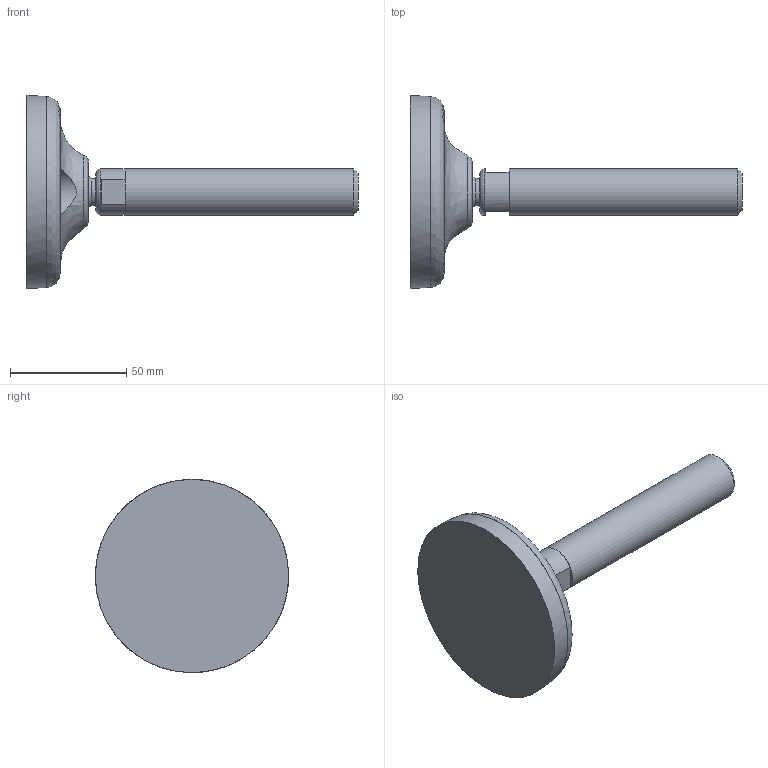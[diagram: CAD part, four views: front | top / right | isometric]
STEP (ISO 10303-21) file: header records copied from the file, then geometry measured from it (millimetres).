
FILE_DESCRIPTION(('STEP AP203'),'2;1');
FILE_NAME('10310.stp','2014-05-26T14:01:07',(''),(''),'2008.1.107','THINKDESIGN','');
FILE_SCHEMA(('CONFIG_CONTROL_DESIGN'));
Length unit declared in the file: millimetre
Bounding box: 142.5 x 83 x 83 mm (x, y, z)
Volume: 34960 mm3; surface area: 22803.3 mm2
Topology: 2 solids, 2 shells, 27 faces, 71 edges, 52 vertices
Faces by surface type: plane 15, bspline 7, cylinder 5
Full cylindrical faces by diameter (mm): 11.64 x1, 20 x2
Entity records: 1511 total; most frequent: CARTESIAN_POINT 829, DIRECTION 119, ORIENTED_EDGE 54, AXIS2_PLACEMENT_3D 52, COMPOSITE_CURVE_SEGMENT 44, CIRCLE 32, EDGE_CURVE 27, VERTEX_POINT 19
